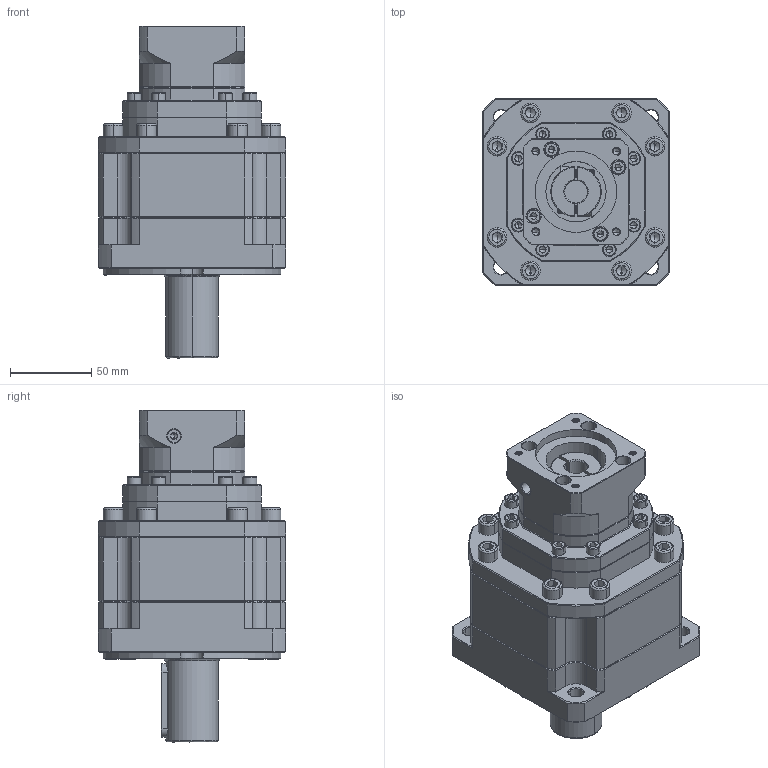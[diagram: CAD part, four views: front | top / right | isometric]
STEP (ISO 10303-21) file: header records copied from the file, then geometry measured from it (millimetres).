
FILE_DESCRIPTION (( 'STEP AP214' ), '1' );
FILE_NAME ('ZB115A-D32-L3-14-50-70-M5.step', '2023-03-03T09:55:59', ( '' ), ( 'Microsoft' ), 'SwSTEP 2.0', 'SolidWorks 2016', '' );
FILE_SCHEMA (( 'AUTOMOTIVE_DESIGN' ));
Length unit declared in the file: millimetre
Products named in the file (1): ZB115A-D32-L3-14-50-70-M5
Bounding box: 115 x 115 x 204 mm (x, y, z)
Volume: 1310041.7 mm3; surface area: 123158.7 mm2
Topology: 7 solids, 7 shells, 2282 faces, 5922 edges, 3749 vertices
Faces by surface type: plane 1126, cylinder 446, bspline 345, cone 343, torus 22
Entity records: 117339 total; most frequent: CARTESIAN_POINT 39299, ORIENTED_EDGE 11720, DIRECTION 9799, EDGE_CURVE 5860, VERTEX_POINT 3749, VECTOR 3657, LINE 3657, AXIS2_PLACEMENT_3D 3071
